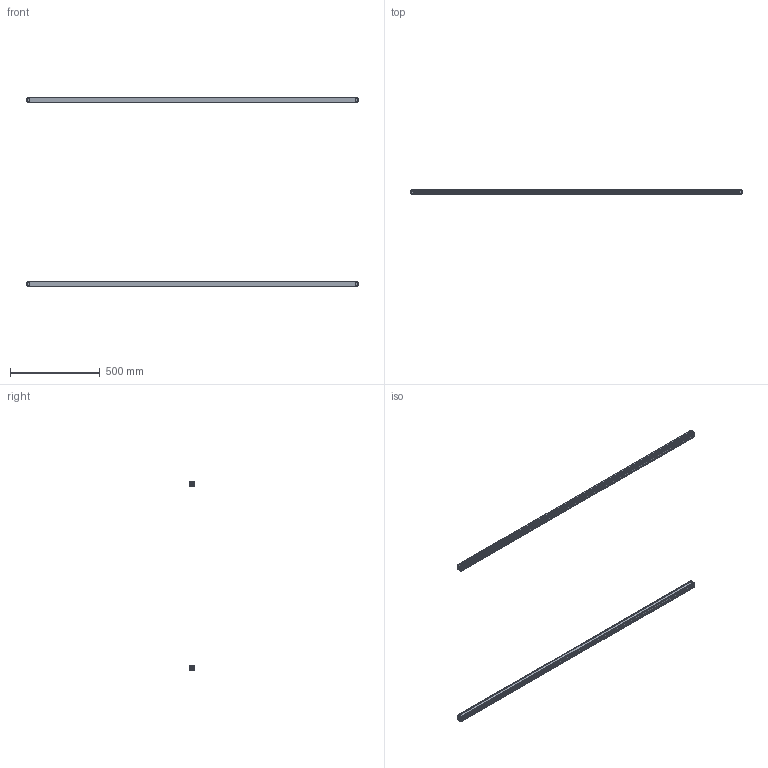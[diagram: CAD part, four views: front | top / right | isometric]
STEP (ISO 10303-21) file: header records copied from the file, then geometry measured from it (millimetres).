
FILE_DESCRIPTION(/* description */ (''),/* implementation_level */ '2;1');
FILE_NAME(/* name */ 'THS20-90.stp',/* time_stamp */ '2023-12-26T10:52:29+08:00',/* author */ (''),/* organization */ (''),/* preprocessor_version */ 'ST-DEVELOPER v16',/* originating_system */ 'SIEMENS PLM Software NX 11.0',/* authorisation */ '');
FILE_SCHEMA (('AP203_CONFIGURATION_CONTROLLED_3D_DESIGN_OF_MECHANICAL_PARTS_AND_ASSEMBLIES_MIM_LF { 1 0 10303 403 2 1 2}'));
Length unit declared in the file: millimetre
Products named in the file (10): 16; 14; 12; 13; 102; 101; 11; ASM0002_ASM; 0000_ASM; THS20-52--_stp
Assembly tree (10 placements, depth 4):
  THS20-52--_stp
    0000_ASM  x2
      11
      101
      102
      13
      12
      ASM0002_ASM
        14
        16
Bounding box: 1852 x 30.3 x 1058.6 mm (x, y, z)
Volume: 1137318.2 mm3; surface area: 1212271.6 mm2
Topology: 10 solids, 14 shells, 1080 faces, 3010 edges, 1986 vertices
Faces by surface type: plane 764, cylinder 288, cone 28
Entity records: 18484 total; most frequent: CARTESIAN_POINT 3097, ORIENTED_EDGE 3006, DIRECTION 2915, EDGE_CURVE 1505, LINE 1173, VECTOR 1173, VERTEX_POINT 993, AXIS2_PLACEMENT_3D 871
